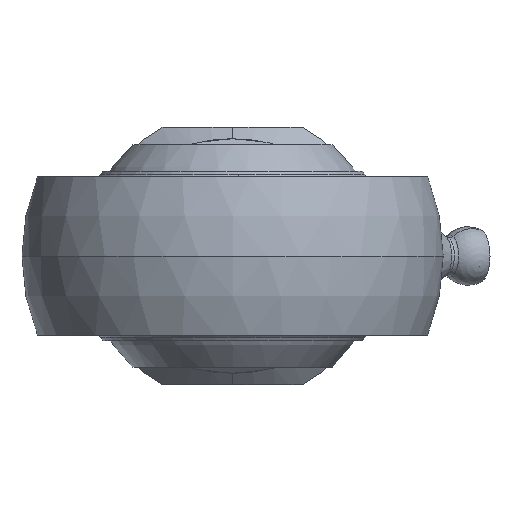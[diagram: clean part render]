
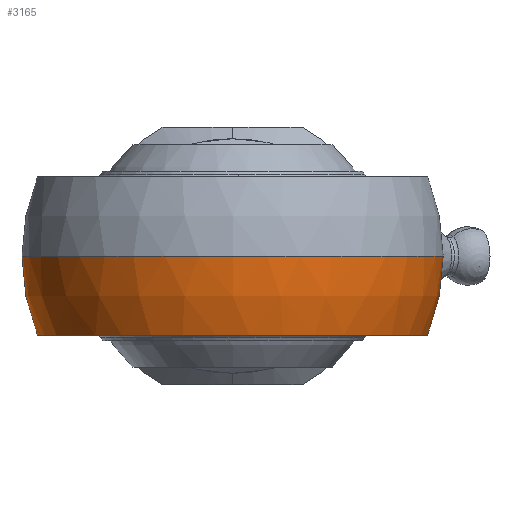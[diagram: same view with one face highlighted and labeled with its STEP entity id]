
A CAD part, left-side view. The second image highlights one B-rep face of the part: STEP entity #3165.
In plain terms, the highlighted spherical face has radius 18 mm.
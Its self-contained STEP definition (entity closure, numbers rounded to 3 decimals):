
#518 = AXIS2_PLACEMENT_3D ( 'NONE', #715, #714, #713 ) ;
#519 = CIRCLE ( 'NONE', #518, 18. ) ;
#520 = CARTESIAN_POINT ( 'NONE',  ( -18., 0., 0. ) ) ;
#521 = CARTESIAN_POINT ( 'NONE',  ( 6.76, -16.682, 0. ) ) ;
#522 = CARTESIAN_POINT ( 'NONE',  ( 6.76, -15.256, -6.75 ) ) ;
#523 = DIRECTION ( 'NONE',  ( 0., 0., 1. ) ) ;
#524 = DIRECTION ( 'NONE',  ( -1., 0., 0. ) ) ;
#525 = CARTESIAN_POINT ( 'NONE',  ( 6.76, 0., 0. ) ) ;
#526 = AXIS2_PLACEMENT_3D ( 'NONE', #525, #524, #523 ) ;
#527 = DIRECTION ( 'NONE',  ( 0., 1., 0. ) ) ;
#528 = DIRECTION ( 'NONE',  ( 0., 0., -1. ) ) ;
#529 = AXIS2_PLACEMENT_3D ( 'NONE', #531, #528, #527 ) ;
#530 = CIRCLE ( 'NONE', #526, 16.682 ) ;
#531 = CARTESIAN_POINT ( 'NONE',  ( 0., 0., 0. ) ) ;
#532 = SPHERICAL_SURFACE ( 'NONE', #529, 18. ) ;
#533 = FACE_OUTER_BOUND ( 'NONE', #3166, .T. ) ;
#708 = DIRECTION ( 'NONE',  ( 1., 0., 0. ) ) ;
#709 = DIRECTION ( 'NONE',  ( 0., 0., 1. ) ) ;
#710 = CARTESIAN_POINT ( 'NONE',  ( 0., 0., 0. ) ) ;
#711 = AXIS2_PLACEMENT_3D ( 'NONE', #710, #709, #708 ) ;
#712 = CIRCLE ( 'NONE', #711, 18. ) ;
#713 = DIRECTION ( 'NONE',  ( 0., 1., 0. ) ) ;
#714 = DIRECTION ( 'NONE',  ( 0., 0., -1. ) ) ;
#715 = CARTESIAN_POINT ( 'NONE',  ( 0., 0., 0. ) ) ;
#882 = DIRECTION ( 'NONE',  ( 1., 0., 0. ) ) ;
#883 = DIRECTION ( 'NONE',  ( 0., 0., 1. ) ) ;
#910 = CARTESIAN_POINT ( 'NONE',  ( 6.76, 16.682, 0. ) ) ;
#912 = CIRCLE ( 'NONE', #965, 16.682 ) ;
#958 = CARTESIAN_POINT ( 'NONE',  ( 0., 0., -6.75 ) ) ;
#959 = AXIS2_PLACEMENT_3D ( 'NONE', #958, #883, #882 ) ;
#960 = CIRCLE ( 'NONE', #959, 16.686 ) ;
#961 = CARTESIAN_POINT ( 'NONE',  ( 6.76, 15.256, -6.75 ) ) ;
#962 = DIRECTION ( 'NONE',  ( 0., 0., 1. ) ) ;
#963 = DIRECTION ( 'NONE',  ( -1., 0., 0. ) ) ;
#964 = CARTESIAN_POINT ( 'NONE',  ( 6.76, 0., 0. ) ) ;
#965 = AXIS2_PLACEMENT_3D ( 'NONE', #964, #963, #962 ) ;
#3165 = ADVANCED_FACE ( 'NONE', ( #533 ), #532, .T. ) ;
#3166 = EDGE_LOOP ( 'NONE', ( #3167, #3172, #3174, #3244, #3247 ) ) ;
#3167 = ORIENTED_EDGE ( 'NONE', *, *, #3168, .T. ) ;
#3168 = EDGE_CURVE ( 'NONE', #3169, #3170, #530, .T. ) ;
#3169 = VERTEX_POINT ( 'NONE', #522 ) ;
#3170 = VERTEX_POINT ( 'NONE', #521 ) ;
#3171 = VERTEX_POINT ( 'NONE', #520 ) ;
#3172 = ORIENTED_EDGE ( 'NONE', *, *, #3173, .T. ) ;
#3173 = EDGE_CURVE ( 'NONE', #3170, #3171, #519, .T. ) ;
#3174 = ORIENTED_EDGE ( 'NONE', *, *, #3175, .F. ) ;
#3175 = EDGE_CURVE ( 'NONE', #3243, #3171, #712, .T. ) ;
#3243 = VERTEX_POINT ( 'NONE', #910 ) ;
#3244 = ORIENTED_EDGE ( 'NONE', *, *, #3245, .T. ) ;
#3245 = EDGE_CURVE ( 'NONE', #3243, #3246, #912, .T. ) ;
#3246 = VERTEX_POINT ( 'NONE', #961 ) ;
#3247 = ORIENTED_EDGE ( 'NONE', *, *, #3248, .T. ) ;
#3248 = EDGE_CURVE ( 'NONE', #3246, #3169, #960, .T. ) ;
